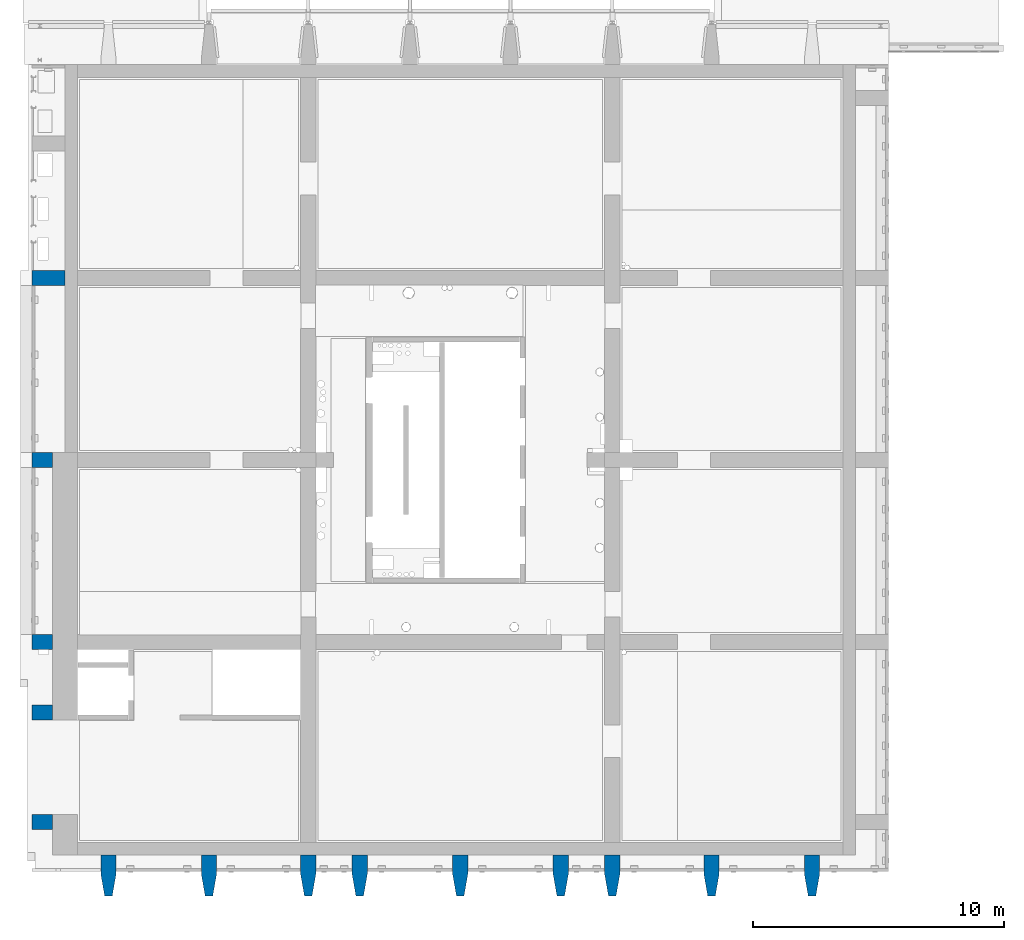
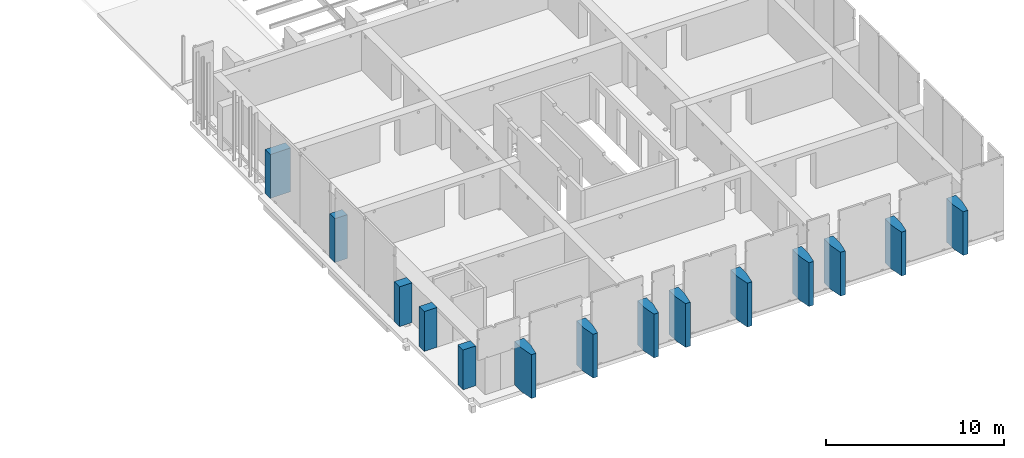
# One storey, part 1 of 31: 14 columns.
"""IFC2X3 building model written with IfcOpenShell, lengths in millimetres."""

from ifc_helpers import new_model, entity, si_unit, converted_unit, derived_unit, direction, frame, frame_2d, origin, place, context, subcontext, project, spatial, polyline, rectangle, outline, extrude, source, transform, mapped, material, type_object, type_shapes, element, save


model = new_model("IFC2X3")

# Units and contexts
model_context = context("Model", 3, precision=0.01, world=origin(), true_north=direction((6.12303176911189e-17, 1.0)))
body_context = subcontext(model_context, "Body", "Model", "MODEL_VIEW")
ifc_project = project(units=[si_unit("LENGTHUNIT", "METRE", prefix="MILLI"), si_unit("AREAUNIT", "SQUARE_METRE"), si_unit("VOLUMEUNIT", "CUBIC_METRE"), converted_unit("PLANEANGLEUNIT", "DEGREE", entity("IfcRatioMeasure", 0.0174532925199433), si_unit("PLANEANGLEUNIT", "RADIAN"), dimensions=[0, 0, 0, 0, 0, 0, 0]), si_unit("MASSUNIT", "GRAM", prefix="KILO"), derived_unit("MASSDENSITYUNIT", [(si_unit("MASSUNIT", "GRAM", prefix="KILO"), 1), (si_unit("LENGTHUNIT", "METRE"), -3)]), si_unit("TIMEUNIT", "SECOND"), si_unit("FREQUENCYUNIT", "HERTZ"), si_unit("THERMODYNAMICTEMPERATUREUNIT", "DEGREE_CELSIUS"), derived_unit("THERMALTRANSMITTANCEUNIT", [(si_unit("MASSUNIT", "GRAM", prefix="KILO"), 1), (si_unit("THERMODYNAMICTEMPERATUREUNIT", "KELVIN"), -1), (si_unit("TIMEUNIT", "SECOND"), -3)]), derived_unit("VOLUMETRICFLOWRATEUNIT", [(si_unit("LENGTHUNIT", "METRE"), 3), (si_unit("TIMEUNIT", "SECOND"), -1)]), si_unit("ELECTRICCURRENTUNIT", "AMPERE"), si_unit("ELECTRICVOLTAGEUNIT", "VOLT"), si_unit("POWERUNIT", "WATT"), si_unit("FORCEUNIT", "NEWTON", prefix="KILO"), si_unit("ILLUMINANCEUNIT", "LUX"), si_unit("LUMINOUSFLUXUNIT", "LUMEN"), si_unit("LUMINOUSINTENSITYUNIT", "CANDELA"), derived_unit("USERDEFINED", [(si_unit("MASSUNIT", "GRAM", prefix="KILO"), -1), (si_unit("LENGTHUNIT", "METRE"), -2), (si_unit("TIMEUNIT", "SECOND"), 3), (si_unit("LUMINOUSFLUXUNIT", "LUMEN"), 1)]), derived_unit("LINEARVELOCITYUNIT", [(si_unit("LENGTHUNIT", "METRE"), 1), (si_unit("TIMEUNIT", "SECOND"), -1)]), si_unit("PRESSUREUNIT", "PASCAL"), derived_unit("USERDEFINED", [(si_unit("LENGTHUNIT", "METRE"), -2), (si_unit("MASSUNIT", "GRAM", prefix="KILO"), 1), (si_unit("TIMEUNIT", "SECOND"), -2)])], contexts=[model_context])

# Site, building, storey
site_placement = place(None, origin())
site = spatial("IfcSite", under=ifc_project, at=site_placement, Name="Default", CompositionType="ELEMENT")
building_placement = place(site_placement, origin())
building = spatial("IfcBuilding", under=site, at=building_placement, Name="niet gebruiken", CompositionType="ELEMENT")
storey_placement = place(building_placement, frame((0.0, 0.0, 12000.0)))
storey = spatial("IfcBuildingStorey", under=building, at=storey_placement, Name="03 derde verdieping", CompositionType="ELEMENT", Elevation=12000.0)

# Columns
ifc_material = material(Name="NLRS_f2_beton ihwg")
column_type_1 = type_object("IfcColumnType", Name="600/300x2120/1270", PredefinedType="COLUMN", material=ifc_material)
shared_shape_1 = source(origin(), body_context, "Body", "SweptSolid", [
    extrude(outline(polyline([(-796.666666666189, -300.0), (-26.6666666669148, -300.0), (823.333333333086, -150.0), (823.333333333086, 150.0), (-26.6666666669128, 300.0), (-796.666666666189, 300.0), (-796.666666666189, -300.0)])), frame((127750.0, 973.333333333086, 11910.0), z_axis=(0.0, 0.0, 1.0), x_axis=(0.0, -1.0, 0.0)), (0.0, 0.0, 1.0), 3000.0),
])
type_shapes(column_type_1, [shared_shape_1])
column_1_placement = place(storey_placement, frame((0.0, 0.0, -12000.0)))
element("IfcColumn", 1, at=column_1_placement, inside=storey, type_object=column_type_1, material=ifc_material, Name="NLRS_28.11_SCO_TLB_beton kolom ihwg V vorm_gen:600/300x2120/1270", ObjectType="600/300x2120/1270", context=body_context, shape_type="MappedRepresentation", body=[
    mapped(shared_shape_1, transform((0.0, 0.0, 0.0), scale=1.0)),
])
column_type_2 = type_object("IfcColumnType", Name="600/300x2120/1270", PredefinedType="COLUMN", material=ifc_material)
shared_shape_2 = source(origin(), body_context, "Body", "SweptSolid", [
    extrude(outline(polyline([(-796.666666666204, -300.0), (-26.666666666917, -300.0), (823.333333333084, -150.0), (823.333333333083, 150.0), (-26.6666666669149, 300.0), (-796.666666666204, 300.0), (-796.666666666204, -300.0)])), frame((131750.0, 973.333333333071, 11910.0), z_axis=(0.0, 0.0, 1.0), x_axis=(0.0, -1.0, 0.0)), (0.0, 0.0, 1.0), 3000.0),
])
type_shapes(column_type_2, [shared_shape_2])
column_2_placement = place(storey_placement, frame((0.0, 0.0, -12000.0)))
element("IfcColumn", 2, at=column_2_placement, inside=storey, type_object=column_type_2, material=ifc_material, Name="NLRS_28.11_SCO_TLB_beton kolom ihwg V vorm_gen:600/300x2120/1270", ObjectType="600/300x2120/1270", context=body_context, shape_type="MappedRepresentation", body=[
    mapped(shared_shape_2, transform((0.0, 0.0, 0.0), scale=1.0)),
])
column_type_3 = type_object("IfcColumnType", Name="600/300x2120/1270", PredefinedType="COLUMN", material=ifc_material)
shared_shape_3 = source(origin(), body_context, "Body", "SweptSolid", [
    extrude(outline(polyline([(-796.666666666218, -300.0), (-26.6666666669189, -300.0), (823.333333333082, -150.0), (823.333333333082, 150.0), (-26.6666666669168, 300.0), (-796.666666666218, 300.0), (-796.666666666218, -300.0)])), frame((135700.0, 973.333333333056, 11910.0), z_axis=(0.0, 0.0, 1.0), x_axis=(0.0, -1.0, 0.0)), (0.0, 0.0, 1.0), 3000.0),
])
type_shapes(column_type_3, [shared_shape_3])
column_3_placement = place(storey_placement, frame((0.0, 0.0, -12000.0)))
element("IfcColumn", 3, at=column_3_placement, inside=storey, type_object=column_type_3, material=ifc_material, Name="NLRS_28.11_SCO_TLB_beton kolom ihwg V vorm_gen:600/300x2120/1270", ObjectType="600/300x2120/1270", context=body_context, shape_type="MappedRepresentation", body=[
    mapped(shared_shape_3, transform((0.0, 0.0, 0.0), scale=1.0)),
])
column_type_4 = type_object("IfcColumnType", Name="600/300x2120/1270", PredefinedType="COLUMN", material=ifc_material)
shared_shape_4 = source(origin(), body_context, "Body", "SweptSolid", [
    extrude(outline(polyline([(-796.666666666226, -300.0), (-26.6666666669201, -300.0), (823.333333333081, -150.0), (823.33333333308, 150.0), (-26.6666666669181, 300.0), (-796.666666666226, 300.0), (-796.666666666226, -300.0)])), frame((137750.0, 973.333333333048, 11910.0), z_axis=(0.0, 0.0, 1.0), x_axis=(0.0, -1.0, 0.0)), (0.0, 0.0, 1.0), 3000.0),
])
type_shapes(column_type_4, [shared_shape_4])
column_4_placement = place(storey_placement, frame((0.0, 0.0, -12000.0)))
element("IfcColumn", 4, at=column_4_placement, inside=storey, type_object=column_type_4, material=ifc_material, Name="NLRS_28.11_SCO_TLB_beton kolom ihwg V vorm_gen:600/300x2120/1270", ObjectType="600/300x2120/1270", context=body_context, shape_type="MappedRepresentation", body=[
    mapped(shared_shape_4, transform((0.0, 0.0, 0.0), scale=1.0)),
])
column_type_5 = type_object("IfcColumnType", Name="600/300x2120/1270", PredefinedType="COLUMN", material=ifc_material)
shared_shape_5 = source(origin(), body_context, "Body", "SweptSolid", [
    extrude(outline(polyline([(-796.666666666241, -300.0), (-26.6666666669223, -300.0), (823.333333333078, -150.0), (823.333333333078, 150.0), (-26.6666666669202, 300.0), (-796.666666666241, 300.0), (-796.666666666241, -300.0)])), frame((141750.0, 973.333333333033, 11910.0), z_axis=(0.0, 0.0, 1.0), x_axis=(0.0, -1.0, 0.0)), (0.0, 0.0, 1.0), 3000.0),
])
type_shapes(column_type_5, [shared_shape_5])
column_5_placement = place(storey_placement, frame((0.0, 0.0, -12000.0)))
element("IfcColumn", 5, at=column_5_placement, inside=storey, type_object=column_type_5, material=ifc_material, Name="NLRS_28.11_SCO_TLB_beton kolom ihwg V vorm_gen:600/300x2120/1270", ObjectType="600/300x2120/1270", context=body_context, shape_type="MappedRepresentation", body=[
    mapped(shared_shape_5, transform((0.0, 0.0, 0.0), scale=1.0)),
])
column_type_6 = type_object("IfcColumnType", Name="600/300x2120/1270", PredefinedType="COLUMN", material=ifc_material)
shared_shape_6 = source(origin(), body_context, "Body", "SweptSolid", [
    extrude(outline(polyline([(-796.666666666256, -300.0), (-26.6666666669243, -300.0), (823.333333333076, -150.0), (823.333333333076, 150.0), (-26.6666666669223, 300.0), (-796.666666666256, 300.0), (-796.666666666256, -300.0)])), frame((145750.0, 973.333333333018, 11910.0), z_axis=(0.0, 0.0, 1.0), x_axis=(0.0, -1.0, 0.0)), (0.0, 0.0, 1.0), 3000.0),
])
type_shapes(column_type_6, [shared_shape_6])
column_6_placement = place(storey_placement, frame((0.0, 0.0, -12000.0)))
element("IfcColumn", 6, at=column_6_placement, inside=storey, type_object=column_type_6, material=ifc_material, Name="NLRS_28.11_SCO_TLB_beton kolom ihwg V vorm_gen:600/300x2120/1270", ObjectType="600/300x2120/1270", context=body_context, shape_type="MappedRepresentation", body=[
    mapped(shared_shape_6, transform((0.0, 0.0, 0.0), scale=1.0)),
])
column_type_7 = type_object("IfcColumnType", Name="600/300x2120/1270", PredefinedType="COLUMN", material=ifc_material)
shared_shape_7 = source(origin(), body_context, "Body", "SweptSolid", [
    extrude(outline(polyline([(-796.666666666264, -300.0), (-26.6666666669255, -300.0), (823.333333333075, -150.0), (823.333333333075, 150.0), (-26.6666666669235, 300.0), (-796.666666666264, 300.0), (-796.666666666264, -300.0)])), frame((147800.0, 973.33333333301, 11910.0), z_axis=(0.0, 0.0, 1.0), x_axis=(0.0, -1.0, 0.0)), (0.0, 0.0, 1.0), 3000.0),
])
type_shapes(column_type_7, [shared_shape_7])
column_7_placement = place(storey_placement, frame((0.0, 0.0, -12000.0)))
element("IfcColumn", 7, at=column_7_placement, inside=storey, type_object=column_type_7, material=ifc_material, Name="NLRS_28.11_SCO_TLB_beton kolom ihwg V vorm_gen:600/300x2120/1270", ObjectType="600/300x2120/1270", context=body_context, shape_type="MappedRepresentation", body=[
    mapped(shared_shape_7, transform((0.0, 0.0, 0.0), scale=1.0)),
])
column_type_8 = type_object("IfcColumnType", Name="600/300x2120/1270", PredefinedType="COLUMN", material=ifc_material)
shared_shape_8 = source(origin(), body_context, "Body", "SweptSolid", [
    extrude(outline(polyline([(-796.666666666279, -300.0), (-26.6666666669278, -300.0), (823.333333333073, -150.0), (823.333333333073, 150.0), (-26.6666666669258, 300.0), (-796.666666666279, 300.0), (-796.666666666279, -300.0)])), frame((151750.0, 973.333333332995, 11910.0), z_axis=(0.0, 0.0, 1.0), x_axis=(0.0, -1.0, 0.0)), (0.0, 0.0, 1.0), 3000.0),
])
type_shapes(column_type_8, [shared_shape_8])
column_8_placement = place(storey_placement, frame((0.0, 0.0, -12000.0)))
element("IfcColumn", 8, at=column_8_placement, inside=storey, type_object=column_type_8, material=ifc_material, Name="NLRS_28.11_SCO_TLB_beton kolom ihwg V vorm_gen:600/300x2120/1270", ObjectType="600/300x2120/1270", context=body_context, shape_type="MappedRepresentation", body=[
    mapped(shared_shape_8, transform((0.0, 0.0, 0.0), scale=1.0)),
])
column_type_9 = type_object("IfcColumnType", Name="600/300x2120/1270", PredefinedType="COLUMN", material=ifc_material)
shared_shape_9 = source(origin(), body_context, "Body", "SweptSolid", [
    extrude(outline(polyline([(-796.666666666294, -300.0), (-26.66666666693, -300.0), (823.333333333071, -150.0), (823.333333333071, 150.0), (-26.6666666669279, 300.0), (-796.666666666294, 300.0), (-796.666666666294, -300.0)])), frame((155750.0, 973.33333333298, 11910.0), z_axis=(0.0, 0.0, 1.0), x_axis=(0.0, -1.0, 0.0)), (0.0, 0.0, 1.0), 3000.0),
])
type_shapes(column_type_9, [shared_shape_9])
column_9_placement = place(storey_placement, frame((0.0, 0.0, -12000.0)))
element("IfcColumn", 9, at=column_9_placement, inside=storey, type_object=column_type_9, material=ifc_material, Name="NLRS_28.11_SCO_TLB_beton kolom ihwg V vorm_gen:600/300x2120/1270", ObjectType="600/300x2120/1270", context=body_context, shape_type="MappedRepresentation", body=[
    mapped(shared_shape_9, transform((0.0, 0.0, 0.0), scale=1.0)),
])
column_type_10 = type_object("IfcColumnType", Name="600x820", PredefinedType="COLUMN", material=ifc_material)
shared_shape_10 = source(origin(), body_context, "Body", "SweptSolid", [
    extrude(rectangle(XDim=600.0, YDim=820.000000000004, at=frame_2d((0.0, 1.73372427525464e-11), x_axis=(1.0, 0.0))), frame((125110.0, 3100.0, 11910.0), z_axis=(0.0, 0.0, 1.0), x_axis=(0.0, -1.0, 0.0)), (0.0, 0.0, 1.0), 2730.0),
])
type_shapes(column_type_10, [shared_shape_10])
column_10_placement = place(storey_placement, frame((0.0, 0.0, -12000.0)))
element("IfcColumn", 10, at=column_10_placement, inside=storey, type_object=column_type_10, material=ifc_material, Name="NLRS_28.11_SCO_TLB_beton kolom ihwg_gen:600x820", ObjectType="600x820", context=body_context, shape_type="MappedRepresentation", body=[
    mapped(shared_shape_10, transform((0.0, 0.0, 0.0), scale=1.0)),
])
column_type_11 = type_object("IfcColumnType", Name="600x820", PredefinedType="COLUMN", material=ifc_material)
shared_shape_11 = source(origin(), body_context, "Body", "SweptSolid", [
    extrude(rectangle(XDim=600.0, YDim=820.000000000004, at=frame_2d((-1.08002495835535e-12, 1.73372427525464e-11), x_axis=(1.0, 0.0))), frame((125110.0, 7450.0, 11910.0), z_axis=(0.0, 0.0, 1.0), x_axis=(0.0, -1.0, 0.0)), (0.0, 0.0, 1.0), 2730.0),
])
type_shapes(column_type_11, [shared_shape_11])
column_11_placement = place(storey_placement, frame((0.0, 0.0, -12000.0)))
element("IfcColumn", 11, at=column_11_placement, inside=storey, type_object=column_type_11, material=ifc_material, Name="NLRS_28.11_SCO_TLB_beton kolom ihwg_gen:600x820", ObjectType="600x820", context=body_context, shape_type="MappedRepresentation", body=[
    mapped(shared_shape_11, transform((0.0, 0.0, 0.0), scale=1.0)),
])
column_type_12 = type_object("IfcColumnType", Name="600x820", PredefinedType="COLUMN", material=ifc_material)
shared_shape_12 = source(origin(), body_context, "Body", "SweptSolid", [
    extrude(rectangle(XDim=600.0, YDim=820.000000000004, at=frame_2d((-1.08002495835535e-12, 1.73372427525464e-11), x_axis=(1.0, 0.0))), frame((125110.0, 17500.0, 11910.0), z_axis=(0.0, 0.0, 1.0), x_axis=(0.0, -1.0, 0.0)), (0.0, 0.0, 1.0), 3000.0),
])
type_shapes(column_type_12, [shared_shape_12])
column_12_placement = place(storey_placement, frame((0.0, 0.0, -12000.0)))
element("IfcColumn", 12, at=column_12_placement, inside=storey, type_object=column_type_12, material=ifc_material, Name="NLRS_28.11_SCO_TLB_beton kolom ihwg_gen:600x820", ObjectType="600x820", context=body_context, shape_type="MappedRepresentation", body=[
    mapped(shared_shape_12, transform((0.0, 0.0, 0.0), scale=1.0)),
])
column_type_13 = type_object("IfcColumnType", Name="600x820", PredefinedType="COLUMN", material=ifc_material)
shared_shape_13 = source(origin(), body_context, "Body", "SweptSolid", [
    extrude(rectangle(XDim=600.0, YDim=820.000000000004, at=frame_2d((1.08002495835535e-12, 1.73372427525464e-11), x_axis=(1.0, 0.0))), frame((125110.0, 10250.0, 11910.0), z_axis=(0.0, 0.0, 1.0), x_axis=(0.0, -1.0, 0.0)), (0.0, 0.0, 1.0), 2730.0),
])
type_shapes(column_type_13, [shared_shape_13])
column_13_placement = place(storey_placement, frame((0.0, 0.0, -12000.0)))
element("IfcColumn", 13, at=column_13_placement, inside=storey, type_object=column_type_13, material=ifc_material, Name="NLRS_28.11_SCO_TLB_beton kolom ihwg_gen:600x820", ObjectType="600x820", context=body_context, shape_type="MappedRepresentation", body=[
    mapped(shared_shape_13, transform((0.0, 0.0, 0.0), scale=1.0)),
])
column_type_14 = type_object("IfcColumnType", Name="600x1320", PredefinedType="COLUMN", material=ifc_material)
shared_shape_14 = source(origin(), body_context, "Body", "SweptSolid", [
    extrude(rectangle(XDim=599.999999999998, YDim=1319.99999999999, at=frame_2d((0.0, -1.73372427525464e-11), x_axis=(1.0, 0.0))), frame((125360.0, 24750.0, 11910.0), z_axis=(0.0, 0.0, 1.0), x_axis=(0.0, -1.0, 0.0)), (0.0, 0.0, 1.0), 3000.0),
])
type_shapes(column_type_14, [shared_shape_14])
column_14_placement = place(storey_placement, frame((0.0, 0.0, -12000.0)))
element("IfcColumn", 14, at=column_14_placement, inside=storey, type_object=column_type_14, material=ifc_material, Name="NLRS_28.11_SCO_TLB_beton kolom ihwg_gen:600x1320", ObjectType="600x1320", context=body_context, shape_type="MappedRepresentation", body=[
    mapped(shared_shape_14, transform((0.0, 0.0, 0.0), scale=1.0)),
])

save(model, "model.ifc")
